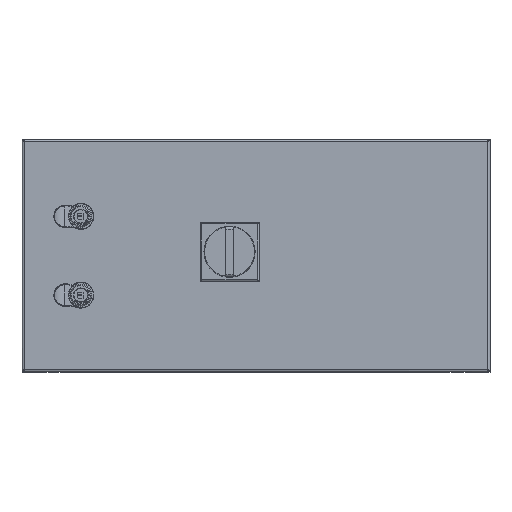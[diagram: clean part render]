
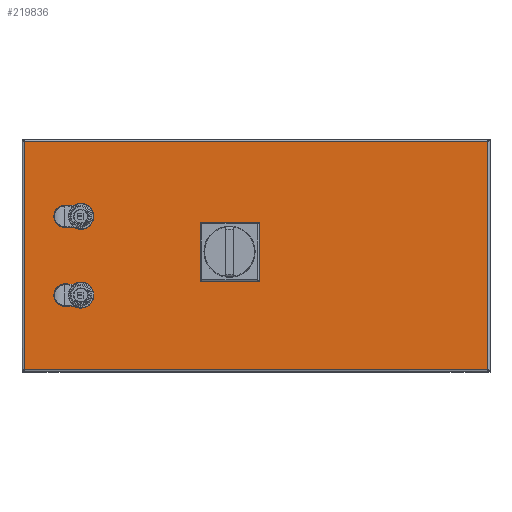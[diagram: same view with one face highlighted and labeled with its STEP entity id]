
A CAD part, top view. The second image highlights one B-rep face of the part: STEP entity #219836.
In plain terms, the highlighted planar face has unit normal (0, 0, 1).
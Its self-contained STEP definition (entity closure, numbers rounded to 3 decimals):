
#214086=CARTESIAN_POINT(' ',(289.389,147.733,228.253));
#214087=VERTEX_POINT(' ',#214086);
#214716=CARTESIAN_POINT(' ',(289.389,-141.667,228.253));
#214717=VERTEX_POINT(' ',#214716);
#215561=CARTESIAN_POINT(' ',(289.389,147.733,228.253));
#215566=DIRECTION(' ',(0.,-1.,0.));
#215571=VECTOR(' ',#215566,1.);
#215576=LINE('',#215561,#215571);
#215581=EDGE_CURVE(' ',#214087,#214717,#215576,.T.);
#217561=CARTESIAN_POINT(' ',(-299.011,-141.667,228.253));
#217562=VERTEX_POINT(' ',#217561);
#218031=CARTESIAN_POINT(' ',(-299.011,147.733,228.253));
#218032=VERTEX_POINT(' ',#218031);
#219706=DIRECTION(' ',(-0.,-0.,1.));
#219711=CARTESIAN_POINT(' ',(289.389,-141.667,228.253));
#219716=DIRECTION(' ',(0.,1.,0.));
#219721=AXIS2_PLACEMENT_3D(' ',#219711,#219706,#219716);
#219726=PLANE('NONE',#219721);
#219731=CARTESIAN_POINT(' ',(-299.011,-141.667,228.253));
#219736=DIRECTION(' ',(1.,0.,0.));
#219741=VECTOR(' ',#219736,1.);
#219746=LINE('',#219731,#219741);
#219751=EDGE_CURVE(' ',#217562,#214717,#219746,.T.);
#219756=ORIENTED_EDGE(' ',*,*,#219751,.T.);
#219761=ORIENTED_EDGE(' ',*,*,#215581,.F.);
#219766=CARTESIAN_POINT(' ',(289.389,147.733,228.253));
#219771=DIRECTION(' ',(-1.,0.,0.));
#219776=VECTOR(' ',#219771,1.);
#219781=LINE('',#219766,#219776);
#219786=EDGE_CURVE(' ',#214087,#218032,#219781,.T.);
#219791=ORIENTED_EDGE(' ',*,*,#219786,.T.);
#219796=CARTESIAN_POINT(' ',(-299.011,147.733,228.253));
#219801=DIRECTION(' ',(0.,-1.,0.));
#219806=VECTOR(' ',#219801,1.);
#219811=LINE('',#219796,#219806);
#219816=EDGE_CURVE(' ',#218032,#217562,#219811,.T.);
#219821=ORIENTED_EDGE(' ',*,*,#219816,.T.);
#219826=EDGE_LOOP(' ',(#219756,#219761,#219791,#219821));
#219831=FACE_OUTER_BOUND(' ',#219826,.T.);
#219836=ADVANCED_FACE('NONE',(#219831),#219726,.T.);
